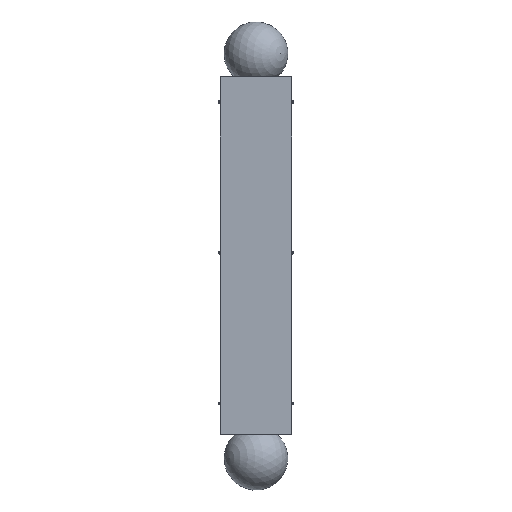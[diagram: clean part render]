
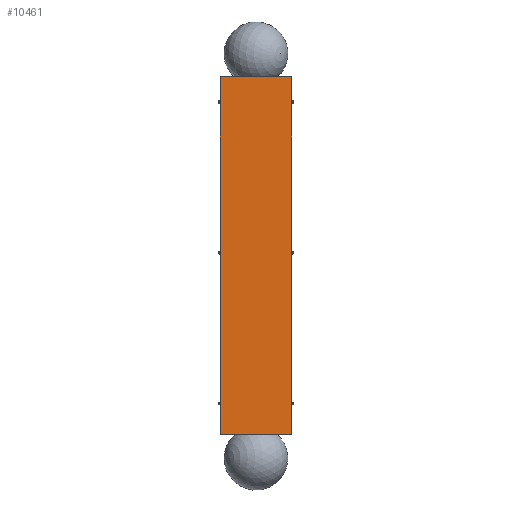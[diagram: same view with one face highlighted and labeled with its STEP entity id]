
A CAD part, top view. The second image highlights one B-rep face of the part: STEP entity #10461.
In plain terms, the highlighted planar face has unit normal (0, 0, 1).
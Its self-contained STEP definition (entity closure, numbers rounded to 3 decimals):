
#719=PLANE('',#11390);
#1086=FACE_OUTER_BOUND('',#1909,.T.);
#1909=EDGE_LOOP('',(#7398,#7399,#7400,#7401));
#2968=LINE('',#17644,#3409);
#2969=LINE('',#17646,#3410);
#2970=LINE('',#17648,#3411);
#2971=LINE('',#17649,#3412);
#3409=VECTOR('',#13407,10.);
#3410=VECTOR('',#13408,10.);
#3411=VECTOR('',#13409,10.);
#3412=VECTOR('',#13410,10.);
#4799=VERTEX_POINT('',#17642);
#4800=VERTEX_POINT('',#17643);
#4801=VERTEX_POINT('',#17645);
#4802=VERTEX_POINT('',#17647);
#5767=EDGE_CURVE('',#4799,#4800,#2968,.T.);
#5768=EDGE_CURVE('',#4801,#4800,#2969,.T.);
#5769=EDGE_CURVE('',#4801,#4802,#2970,.T.);
#5770=EDGE_CURVE('',#4799,#4802,#2971,.T.);
#7398=ORIENTED_EDGE('',*,*,#5767,.T.);
#7399=ORIENTED_EDGE('',*,*,#5768,.F.);
#7400=ORIENTED_EDGE('',*,*,#5769,.T.);
#7401=ORIENTED_EDGE('',*,*,#5770,.F.);
#10461=ADVANCED_FACE('',(#1086),#719,.T.);
#11390=AXIS2_PLACEMENT_3D('',#17641,#13405,#13406);
#13405=DIRECTION('center_axis',(0.,0.,
1.));
#13406=DIRECTION('ref_axis',(-1.,0.,0.));
#13407=DIRECTION('',(0.,-1.,0.));
#13408=DIRECTION('',(-1.,0.,0.));
#13409=DIRECTION('',(0.,1.,0.));
#13410=DIRECTION('',(1.,0.,0.));
#17641=CARTESIAN_POINT('Origin',(-138.5,698.429,1018.918));
#17642=CARTESIAN_POINT('',(-140.,700.,1018.918));
#17643=CARTESIAN_POINT('',(-140.,-700.,1018.918));
#17644=CARTESIAN_POINT('',(-140.,698.429,1018.918));
#17645=CARTESIAN_POINT('',(140.,-700.,1018.918));
#17646=CARTESIAN_POINT('',(-70.,-700.,1018.918));
#17647=CARTESIAN_POINT('',(140.,700.,1018.918));
#17648=CARTESIAN_POINT('',(140.,-698.429,1018.918));
#17649=CARTESIAN_POINT('',(70.,700.,1018.918));
